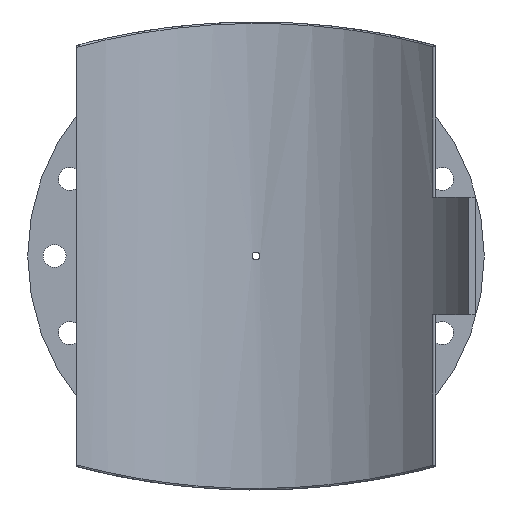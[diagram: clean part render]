
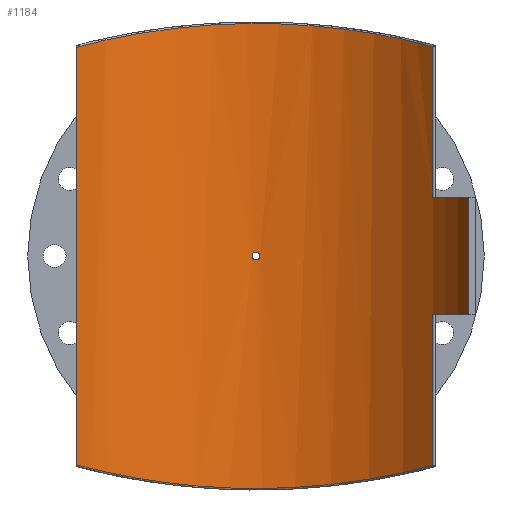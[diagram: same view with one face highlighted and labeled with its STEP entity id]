
A CAD part, front view. The second image highlights one B-rep face of the part: STEP entity #1184.
In plain terms, the highlighted cylindrical face has radius 315 mm (diameter 630 mm), a partial arc.
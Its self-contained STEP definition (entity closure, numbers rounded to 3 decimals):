
#55=FACE_BOUND('',#383,.T.);
#117=B_SPLINE_CURVE_WITH_KNOTS('',3,(#2409,#2410,#2411,#2412,#2413,#2414,
#2415,#2416,#2417,#2418),.UNSPECIFIED.,.F.,.F.,(4,1,1,1,1,1,1,4),(-61.468,
-53.896,-46.325,-38.753,-31.181,
-23.61,-16.038,-8.467),.UNSPECIFIED.);
#118=B_SPLINE_CURVE_WITH_KNOTS('',3,(#2427,#2428,#2429,#2430,#2431,#2432,
#2433,#2434,#2435,#2436),.UNSPECIFIED.,.F.,.F.,(4,1,1,1,1,1,1,4),(-58.614,
-51.043,-43.471,-35.899,-28.328,
-20.756,-13.185,-5.613),.UNSPECIFIED.);
#119=B_SPLINE_CURVE_WITH_KNOTS('',3,(#2439,#2440,#2441,#2442,#2443,#2444,
#2445,#2446,#2447,#2448),.UNSPECIFIED.,.F.,.F.,(4,2,2,2,4),(0.,0.196,
0.392,0.588,0.784),.UNSPECIFIED.);
#120=B_SPLINE_CURVE_WITH_KNOTS('',3,(#2449,#2450,#2451,#2452,#2453,#2454,
#2455,#2456,#2457,#2458,#2459,#2460,#2461,#2462,#2463,#2464,#2465,#2466,
#2467,#2468,#2469,#2470,#2471,#2472,#2473,#2474),.UNSPECIFIED.,.F.,.F.,
(4,2,2,2,2,2,2,2,2,2,2,2,4),(0.784,0.979,1.175,
1.371,1.567,1.763,1.959,2.155,
2.351,2.546,2.742,2.938,3.134),
 .UNSPECIFIED.);
#141=LINE('',#1776,#197);
#152=LINE('',#2092,#208);
#159=LINE('',#2423,#215);
#160=LINE('',#2426,#216);
#197=VECTOR('',#1418,10.);
#208=VECTOR('',#1457,10.);
#215=VECTOR('',#1494,10.);
#216=VECTOR('',#1497,10.);
#262=CYLINDRICAL_SURFACE('',#1286,315.);
#311=FACE_OUTER_BOUND('',#382,.T.);
#382=EDGE_LOOP('',(#915,#916,#917,#918,#919,#920,#921,#922));
#383=EDGE_LOOP('',(#923,#924));
#490=CIRCLE('',#1287,315.);
#491=CIRCLE('',#1288,315.);
#561=VERTEX_POINT('',#1767);
#564=VERTEX_POINT('',#1774);
#584=VERTEX_POINT('',#2085);
#587=VERTEX_POINT('',#2090);
#600=VERTEX_POINT('',#2392);
#601=VERTEX_POINT('',#2420);
#602=VERTEX_POINT('',#2422);
#603=VERTEX_POINT('',#2425);
#604=VERTEX_POINT('',#2437);
#605=VERTEX_POINT('',#2438);
#674=EDGE_CURVE('',#564,#561,#141,.T.);
#704=EDGE_CURVE('',#587,#584,#152,.T.);
#727=EDGE_CURVE('',#600,#587,#117,.T.);
#728=EDGE_CURVE('',#601,#564,#490,.T.);
#729=EDGE_CURVE('',#601,#602,#159,.T.);
#730=EDGE_CURVE('',#584,#602,#491,.T.);
#731=EDGE_CURVE('',#603,#600,#160,.T.);
#732=EDGE_CURVE('',#561,#603,#118,.T.);
#733=EDGE_CURVE('',#604,#605,#119,.T.);
#734=EDGE_CURVE('',#605,#604,#120,.T.);
#915=ORIENTED_EDGE('',*,*,#728,.F.);
#916=ORIENTED_EDGE('',*,*,#729,.T.);
#917=ORIENTED_EDGE('',*,*,#730,.F.);
#918=ORIENTED_EDGE('',*,*,#704,.F.);
#919=ORIENTED_EDGE('',*,*,#727,.F.);
#920=ORIENTED_EDGE('',*,*,#731,.F.);
#921=ORIENTED_EDGE('',*,*,#732,.F.);
#922=ORIENTED_EDGE('',*,*,#674,.F.);
#923=ORIENTED_EDGE('',*,*,#733,.T.);
#924=ORIENTED_EDGE('',*,*,#734,.T.);
#1184=ADVANCED_FACE('',(#311,#55),#262,.F.);
#1286=AXIS2_PLACEMENT_3D('',#2419,#1490,#1491);
#1287=AXIS2_PLACEMENT_3D('',#2421,#1492,#1493);
#1288=AXIS2_PLACEMENT_3D('',#2424,#1495,#1496);
#1418=DIRECTION('',(0.,0.,-1.));
#1457=DIRECTION('',(0.,0.,-1.));
#1490=DIRECTION('center_axis',(0.,0.,1.));
#1491=DIRECTION('ref_axis',(-1.,0.,0.));
#1492=DIRECTION('center_axis',(0.,0.,1.));
#1493=DIRECTION('ref_axis',(-0.88,-0.475,0.));
#1494=DIRECTION('',(0.,0.,1.));
#1495=DIRECTION('center_axis',(0.,0.,-1.));
#1496=DIRECTION('ref_axis',(-0.88,-0.475,0.));
#1497=DIRECTION('',(0.,0.,1.));
#1767=CARTESIAN_POINT('',(230.536,214.658,-272.96));
#1774=CARTESIAN_POINT('',(230.536,214.658,-76.25));
#1776=CARTESIAN_POINT('',(230.536,214.658,0.));
#2085=CARTESIAN_POINT('',(230.536,214.658,76.25));
#2090=CARTESIAN_POINT('',(230.536,214.658,272.96));
#2092=CARTESIAN_POINT('',(230.536,214.658,0.));
#2392=CARTESIAN_POINT('',(-234.,210.877,272.034));
#2409=CARTESIAN_POINT('Ctrl Pts',(-234.,210.877,272.034));
#2410=CARTESIAN_POINT('Ctrl Pts',(-217.473,229.216,276.485));
#2411=CARTESIAN_POINT('Ctrl Pts',(-180.115,261.982,285.53));
#2412=CARTESIAN_POINT('Ctrl Pts',(-113.796,296.911,296.713));
#2413=CARTESIAN_POINT('Ctrl Pts',(-40.535,315.419,303.142));
#2414=CARTESIAN_POINT('Ctrl Pts',(35.311,316.047,303.365));
#2415=CARTESIAN_POINT('Ctrl Pts',(108.904,298.745,297.336));
#2416=CARTESIAN_POINT('Ctrl Pts',(175.821,264.886,286.411));
#2417=CARTESIAN_POINT('Ctrl Pts',(213.715,232.724,277.419));
#2418=CARTESIAN_POINT('Ctrl Pts',(230.536,214.658,272.96));
#2419=CARTESIAN_POINT('Origin',(0.,0.,0.));
#2420=CARTESIAN_POINT('',(277.191,149.633,-76.25));
#2421=CARTESIAN_POINT('Origin',(0.,0.,
-76.25));
#2422=CARTESIAN_POINT('',(277.191,149.633,76.25));
#2423=CARTESIAN_POINT('',(277.191,149.633,0.));
#2424=CARTESIAN_POINT('Origin',(0.,0.,
76.25));
#2425=CARTESIAN_POINT('',(-234.,210.877,-272.034));
#2426=CARTESIAN_POINT('',(-234.,210.877,0.));
#2427=CARTESIAN_POINT('Ctrl Pts',(230.536,214.658,-272.96));
#2428=CARTESIAN_POINT('Ctrl Pts',(213.715,232.724,-277.419));
#2429=CARTESIAN_POINT('Ctrl Pts',(175.821,264.886,-286.412));
#2430=CARTESIAN_POINT('Ctrl Pts',(108.903,298.744,-297.334));
#2431=CARTESIAN_POINT('Ctrl Pts',(35.312,316.049,-303.367));
#2432=CARTESIAN_POINT('Ctrl Pts',(-40.534,315.418,-303.14));
#2433=CARTESIAN_POINT('Ctrl Pts',(-113.797,296.912,-296.714));
#2434=CARTESIAN_POINT('Ctrl Pts',(-180.115,261.981,-285.529));
#2435=CARTESIAN_POINT('Ctrl Pts',(-217.473,229.216,-276.485));
#2436=CARTESIAN_POINT('Ctrl Pts',(-234.,210.877,-272.034));
#2437=CARTESIAN_POINT('',(5.2,314.957,0.));
#2438=CARTESIAN_POINT('',(0.,315.,-5.2));
#2439=CARTESIAN_POINT('Ctrl Pts',(5.2,314.957,0.));
#2440=CARTESIAN_POINT('Ctrl Pts',(5.2,314.957,-0.653));
#2441=CARTESIAN_POINT('Ctrl Pts',(5.07,314.959,-1.349));
#2442=CARTESIAN_POINT('Ctrl Pts',(4.539,314.967,-2.631));
#2443=CARTESIAN_POINT('Ctrl Pts',(4.139,314.973,-3.215));
#2444=CARTESIAN_POINT('Ctrl Pts',(3.215,314.984,-4.139));
#2445=CARTESIAN_POINT('Ctrl Pts',(2.631,314.99,-4.539));
#2446=CARTESIAN_POINT('Ctrl Pts',(1.349,314.998,-5.07));
#2447=CARTESIAN_POINT('Ctrl Pts',(0.653,315.,-5.2));
#2448=CARTESIAN_POINT('Ctrl Pts',(0.,315.,-5.2));
#2449=CARTESIAN_POINT('Ctrl Pts',(0.,315.,-5.2));
#2450=CARTESIAN_POINT('Ctrl Pts',(-0.653,315.,-5.2));
#2451=CARTESIAN_POINT('Ctrl Pts',(-1.349,314.998,-5.07));
#2452=CARTESIAN_POINT('Ctrl Pts',(-2.631,314.99,-4.539));
#2453=CARTESIAN_POINT('Ctrl Pts',(-3.215,314.984,-4.139));
#2454=CARTESIAN_POINT('Ctrl Pts',(-4.139,314.973,-3.215));
#2455=CARTESIAN_POINT('Ctrl Pts',(-4.539,314.967,-2.631));
#2456=CARTESIAN_POINT('Ctrl Pts',(-5.07,314.959,-1.349));
#2457=CARTESIAN_POINT('Ctrl Pts',(-5.2,314.957,-0.653));
#2458=CARTESIAN_POINT('Ctrl Pts',(-5.2,314.957,0.653));
#2459=CARTESIAN_POINT('Ctrl Pts',(-5.07,314.959,1.349));
#2460=CARTESIAN_POINT('Ctrl Pts',(-4.539,314.967,2.631));
#2461=CARTESIAN_POINT('Ctrl Pts',(-4.139,314.973,3.215));
#2462=CARTESIAN_POINT('Ctrl Pts',(-3.215,314.984,4.139));
#2463=CARTESIAN_POINT('Ctrl Pts',(-2.631,314.99,4.539));
#2464=CARTESIAN_POINT('Ctrl Pts',(-1.349,314.998,5.07));
#2465=CARTESIAN_POINT('Ctrl Pts',(-0.653,315.,5.2));
#2466=CARTESIAN_POINT('Ctrl Pts',(0.653,315.,5.2));
#2467=CARTESIAN_POINT('Ctrl Pts',(1.349,314.998,5.07));
#2468=CARTESIAN_POINT('Ctrl Pts',(2.631,314.99,4.539));
#2469=CARTESIAN_POINT('Ctrl Pts',(3.215,314.984,4.139));
#2470=CARTESIAN_POINT('Ctrl Pts',(4.139,314.973,3.215));
#2471=CARTESIAN_POINT('Ctrl Pts',(4.539,314.967,2.631));
#2472=CARTESIAN_POINT('Ctrl Pts',(5.07,314.959,1.349));
#2473=CARTESIAN_POINT('Ctrl Pts',(5.2,314.957,0.653));
#2474=CARTESIAN_POINT('Ctrl Pts',(5.2,314.957,0.));
